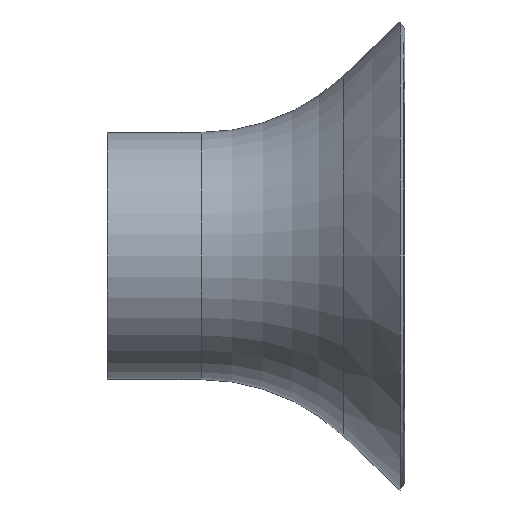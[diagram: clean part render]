
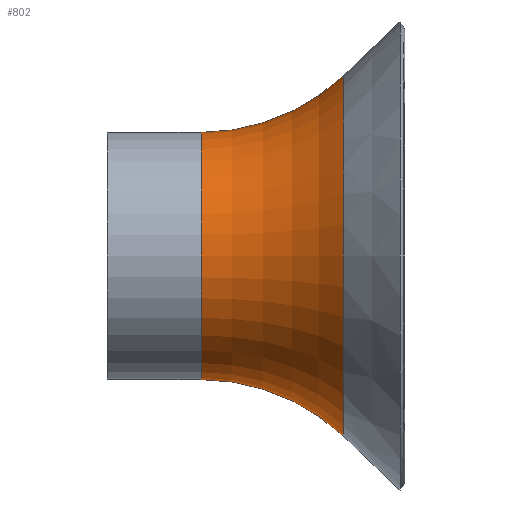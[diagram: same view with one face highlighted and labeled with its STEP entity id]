
A CAD part, left-side view. The second image highlights one B-rep face of the part: STEP entity #802.
In plain terms, the highlighted toroidal (fillet/blend) face has major radius 21.091 mm and minor radius 13.191 mm.
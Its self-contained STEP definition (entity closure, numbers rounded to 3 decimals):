
#60 = VERTEX_POINT ( 'NONE', #431 ) ;
#133 = CARTESIAN_POINT ( 'NONE',  ( 0., -6., -7.9 ) ) ;
#135 = CARTESIAN_POINT ( 'NONE',  ( 0., -6., -21.091 ) ) ;
#163 = FACE_OUTER_BOUND ( 'NONE', #543, .T. ) ;
#227 = ORIENTED_EDGE ( 'NONE', *, *, #1015, .F. ) ;
#230 = EDGE_CURVE ( 'NONE', #1088, #971, #1372, .T. ) ;
#260 = DIRECTION ( 'NONE',  ( 1., 0., 0. ) ) ;
#288 = ORIENTED_EDGE ( 'NONE', *, *, #876, .T. ) ;
#311 = AXIS2_PLACEMENT_3D ( 'NONE', #906, #1021, #1346 ) ;
#431 = CARTESIAN_POINT ( 'NONE',  ( 0., -15.069, 11.512 ) ) ;
#474 = VERTEX_POINT ( 'NONE', #1308 ) ;
#543 = EDGE_LOOP ( 'NONE', ( #1112, #940, #288, #227 ) ) ;
#580 = DIRECTION ( 'NONE',  ( 0., 0., 1. ) ) ;
#654 = AXIS2_PLACEMENT_3D ( 'NONE', #135, #260, #703 ) ;
#669 = DIRECTION ( 'NONE',  ( 0., 1., 0. ) ) ;
#686 = DIRECTION ( 'NONE',  ( 0., 1., 0. ) ) ;
#698 = DIRECTION ( 'NONE',  ( 0., 0., 1. ) ) ;
#703 = DIRECTION ( 'NONE',  ( 0., 0., -1. ) ) ;
#782 = AXIS2_PLACEMENT_3D ( 'NONE', #1364, #669, #898 ) ;
#802 = ADVANCED_FACE ( 'NONE', ( #163 ), #1413, .F. ) ;
#805 = CIRCLE ( 'NONE', #1210, 13.191 ) ;
#810 = CARTESIAN_POINT ( 'NONE',  ( 0., -6., 21.091 ) ) ;
#876 = EDGE_CURVE ( 'NONE', #474, #60, #1177, .T. ) ;
#898 = DIRECTION ( 'NONE',  ( 0., 0., 1. ) ) ;
#906 = CARTESIAN_POINT ( 'NONE',  ( 0., -6., 0. ) ) ;
#940 = ORIENTED_EDGE ( 'NONE', *, *, #1375, .T. ) ;
#955 = DIRECTION ( 'NONE',  ( -1., 0., 0. ) ) ;
#971 = VERTEX_POINT ( 'NONE', #1175 ) ;
#1015 = EDGE_CURVE ( 'NONE', #971, #60, #805, .T. ) ;
#1021 = DIRECTION ( 'NONE',  ( 0., 1., 0. ) ) ;
#1088 = VERTEX_POINT ( 'NONE', #133 ) ;
#1112 = ORIENTED_EDGE ( 'NONE', *, *, #230, .F. ) ;
#1152 = AXIS2_PLACEMENT_3D ( 'NONE', #1154, #686, #580 ) ;
#1154 = CARTESIAN_POINT ( 'NONE',  ( 0., -15.069, 0. ) ) ;
#1175 = CARTESIAN_POINT ( 'NONE',  ( 0., -6., 7.9 ) ) ;
#1177 = CIRCLE ( 'NONE', #1152, 11.512 ) ;
#1210 = AXIS2_PLACEMENT_3D ( 'NONE', #810, #955, #698 ) ;
#1308 = CARTESIAN_POINT ( 'NONE',  ( 0., -15.069, -11.512 ) ) ;
#1346 = DIRECTION ( 'NONE',  ( 0., 0., 1. ) ) ;
#1364 = CARTESIAN_POINT ( 'NONE',  ( 0., -6., 0. ) ) ;
#1367 = CIRCLE ( 'NONE', #654, 13.191 ) ;
#1372 = CIRCLE ( 'NONE', #311, 7.9 ) ;
#1375 = EDGE_CURVE ( 'NONE', #1088, #474, #1367, .T. ) ;
#1413 = TOROIDAL_SURFACE ( 'NONE', #782, 21.091, 13.191 ) ;
